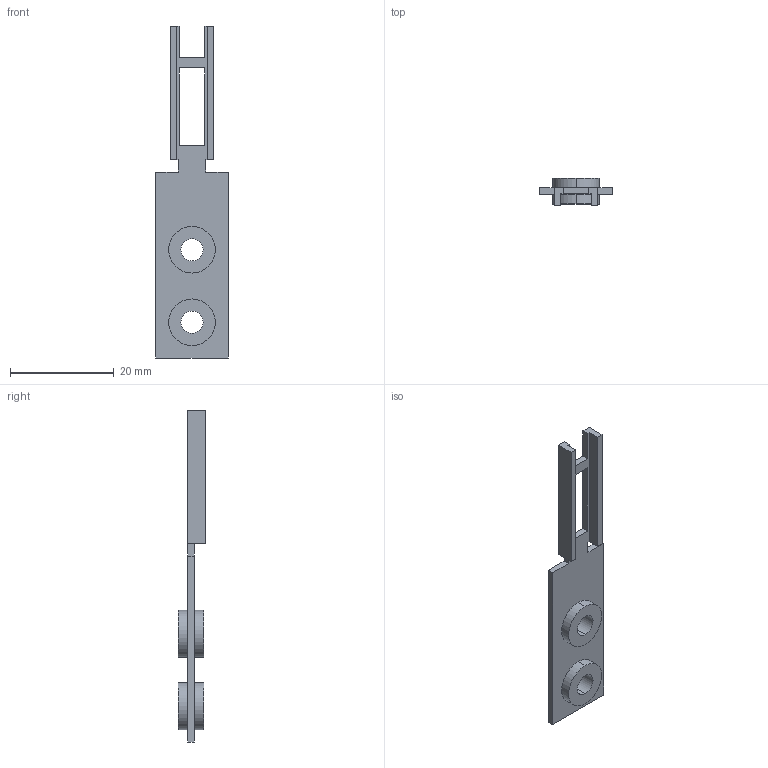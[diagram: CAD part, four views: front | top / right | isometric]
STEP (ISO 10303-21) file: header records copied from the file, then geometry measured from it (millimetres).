
FILE_DESCRIPTION (( 'STEP AP203' ), '1' );
FILE_NAME ('sg-k11.STEP', '2013-07-23T03:57:57', ( ' ' ), ( ' ' ), 'SwSTEP 2.0', 'SolidWorks 2010', '' );
FILE_SCHEMA (( 'CONFIG_CONTROL_DESIGN' ));
Length unit declared in the file: millimetre
Products named in the file (1): sg-k11
Bounding box: 14 x 5.4 x 64.1 mm (x, y, z)
Volume: 1233.1 mm3; surface area: 2051.6 mm2
Topology: 1 solids, 1 shells, 42 faces, 108 edges, 72 vertices
Faces by surface type: plane 30, cylinder 12
Entity records: 1365 total; most frequent: CARTESIAN_POINT 223, DIRECTION 218, ORIENTED_EDGE 216, EDGE_CURVE 108, VECTOR 84, LINE 84, VERTEX_POINT 72, AXIS2_PLACEMENT_3D 67
